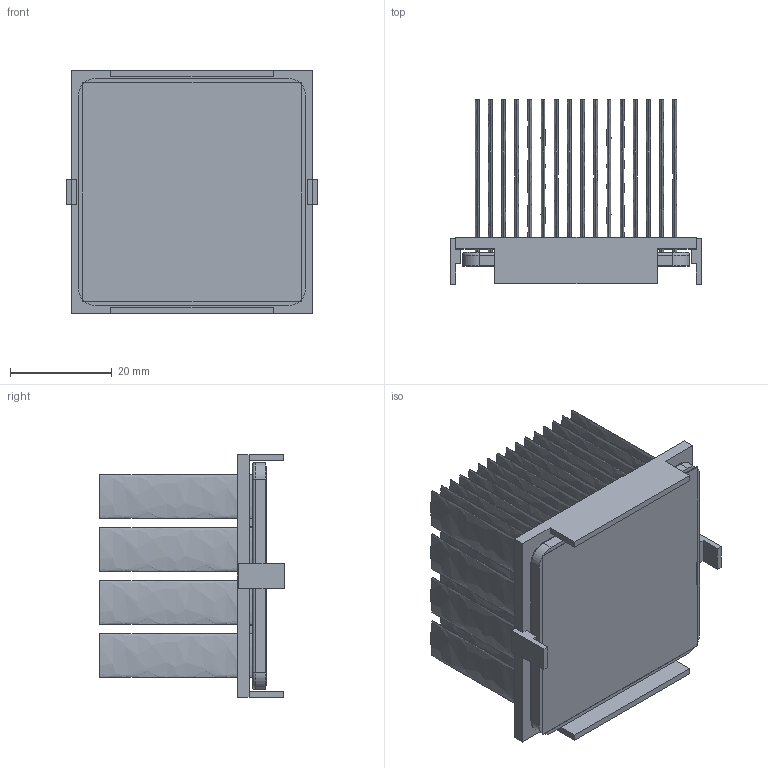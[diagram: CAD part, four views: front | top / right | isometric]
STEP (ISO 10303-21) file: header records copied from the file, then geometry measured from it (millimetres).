
FILE_DESCRIPTION (( 'STEP AP214' ), '1' );
FILE_NAME ('INM45001-33W-2.6Y.STEP', '2023-02-28T00:52:25', ( '' ), ( '' ), 'SwSTEP 2.0', 'SolidWorks 2020', '' );
FILE_SCHEMA (( 'AUTOMOTIVE_DESIGN' ));
Length unit declared in the file: inch
Products named in the file (1): INM45001-33W-2.6Y
Bounding box: 49.2 x 36.2 x 47.7 mm (x, y, z)
Volume: 17913.9 mm3; surface area: 44485.6 mm2
Topology: 3 solids, 3 shells, 274 faces, 604 edges, 400 vertices
Faces by surface type: plane 134, bspline 128, cylinder 8, torus 4
Entity records: 11396 total; most frequent: CARTESIAN_POINT 2943, ORIENTED_EDGE 1208, DIRECTION 662, EDGE_CURVE 604, VERTEX_POINT 400, EDGE_LOOP 340, LINE 328, VECTOR 328
